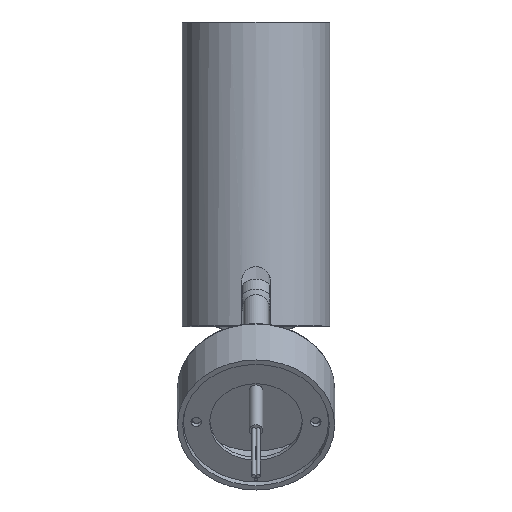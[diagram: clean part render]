
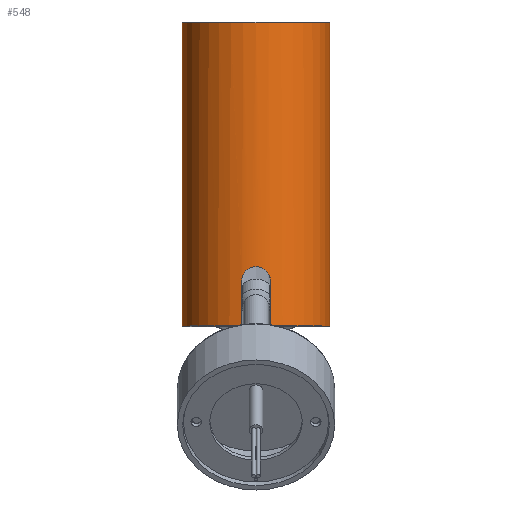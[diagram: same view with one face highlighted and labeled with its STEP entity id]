
A CAD part, top view. The second image highlights one B-rep face of the part: STEP entity #548.
In plain terms, the highlighted cylindrical face has radius 27.65 mm (diameter 55.3 mm), a partial arc.
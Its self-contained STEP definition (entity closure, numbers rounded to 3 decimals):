
#55=DIRECTION('',(0.,1.,0.));
#56=VECTOR('',#55,113.7);
#57=CARTESIAN_POINT('',(27.65,0.3,0.));
#58=LINE('',#57,#56);
#110=CARTESIAN_POINT('',(0.,114.,0.));
#111=DIRECTION('',(0.,1.,0.));
#112=DIRECTION('',(-1.,0.,0.));
#113=AXIS2_PLACEMENT_3D('',#110,#111,#112);
#118=CARTESIAN_POINT('',(0.,0.3,0.));
#119=DIRECTION('',(0.,-1.,0.));
#120=DIRECTION('',(1.,0.,0.));
#121=AXIS2_PLACEMENT_3D('',#118,#119,#120);
#126=DIRECTION('',(0.,1.,0.));
#127=VECTOR('',#126,16.8);
#128=CARTESIAN_POINT('',(5.4,0.3,27.118));
#129=LINE('',#128,#127);
#133=CARTESIAN_POINT('',(-5.4,17.1,27.118));
#134=CARTESIAN_POINT('',(-5.4,17.426,27.118));
#135=CARTESIAN_POINT('',(-5.343,18.071,27.129));
#136=CARTESIAN_POINT('',(-5.07,19.047,27.182));
#137=CARTESIAN_POINT('',(-4.631,19.936,27.261));
#138=CARTESIAN_POINT('',(-4.037,20.732,27.356));
#139=CARTESIAN_POINT('',(-3.321,21.396,27.454));
#140=CARTESIAN_POINT('',(-2.48,21.931,27.543));
#141=CARTESIAN_POINT('',(-1.543,22.309,27.613));
#142=CARTESIAN_POINT('',(-0.519,22.507,27.651));
#143=CARTESIAN_POINT('',(0.469,22.511,27.652));
#144=CARTESIAN_POINT('',(1.488,22.325,27.616));
#145=CARTESIAN_POINT('',(2.431,21.957,27.548));
#146=CARTESIAN_POINT('',(3.284,21.425,27.458));
#147=CARTESIAN_POINT('',(4.013,20.758,27.36));
#148=CARTESIAN_POINT('',(4.617,19.959,27.264));
#149=CARTESIAN_POINT('',(5.064,19.065,27.183));
#150=CARTESIAN_POINT('',(5.342,18.082,27.129));
#151=CARTESIAN_POINT('',(5.4,17.43,27.118));
#152=CARTESIAN_POINT('',(5.4,17.1,27.118));
#157=DIRECTION('',(0.,1.,0.));
#158=VECTOR('',#157,16.8);
#159=CARTESIAN_POINT('',(-5.4,0.3,27.118));
#160=LINE('',#159,#158);
#164=CARTESIAN_POINT('',(0.,0.3,0.));
#165=DIRECTION('',(0.,-1.,0.));
#166=DIRECTION('',(-0.195,0.,0.981));
#167=AXIS2_PLACEMENT_3D('',#164,#165,#166);
#172=DIRECTION('',(0.,1.,0.));
#173=VECTOR('',#172,113.7);
#174=CARTESIAN_POINT('',(-27.65,0.3,0.));
#175=LINE('',#174,#173);
#186=CARTESIAN_POINT('',(5.4,0.3,27.118));
#319=CARTESIAN_POINT('',(-5.4,0.3,27.118));
#357=VERTEX_POINT('',#133);
#358=VERTEX_POINT('',#152);
#362=VERTEX_POINT('',#186);
#363=CARTESIAN_POINT('',(27.65,0.3,0.));
#364=VERTEX_POINT('',#363);
#365=CARTESIAN_POINT('',(-27.65,0.3,0.));
#366=VERTEX_POINT('',#365);
#367=VERTEX_POINT('',#319);
#381=CARTESIAN_POINT('',(27.65,114.,0.));
#382=CARTESIAN_POINT('',(-27.65,114.,0.));
#383=VERTEX_POINT('',#381);
#384=VERTEX_POINT('',#382);
#530=CARTESIAN_POINT('',(0.,0.,0.));
#531=DIRECTION('',(0.,1.,0.));
#532=DIRECTION('',(1.,0.,0.));
#533=AXIS2_PLACEMENT_3D('',#530,#531,#532);
#534=CYLINDRICAL_SURFACE('',#533,27.65);
#535=ORIENTED_EDGE('',*,*,#517,.T.);
#536=ORIENTED_EDGE('',*,*,#452,.F.);
#537=ORIENTED_EDGE('',*,*,#430,.T.);
#539=ORIENTED_EDGE('',*,*,#538,.T.);
#541=ORIENTED_EDGE('',*,*,#540,.F.);
#543=ORIENTED_EDGE('',*,*,#542,.F.);
#544=ORIENTED_EDGE('',*,*,#423,.T.);
#545=ORIENTED_EDGE('',*,*,#449,.T.);
#546=EDGE_LOOP('',(#535,#536,#537,#539,#541,#543,#544,#545));
#547=FACE_OUTER_BOUND('',#546,.F.);
#548=ADVANCED_FACE('',(#547),#534,.T.);
#114=CIRCLE('',#113,27.65);
#122=CIRCLE('',#121,27.65);
#153=B_SPLINE_CURVE_WITH_KNOTS('',3,(#133,#134,#135,#136,#137,#138,#139,#140,
#141,#142,#143,#144,#145,#146,#147,#148,#149,#150,#151,#152),.UNSPECIFIED.,.F.,
.F.,(4,1,1,1,1,1,1,1,1,1,1,1,1,1,1,1,1,4),(0.,0.059,
0.118,0.176,0.235,0.294,
0.353,0.412,0.471,0.529,
0.588,0.647,0.706,0.765,
0.824,0.882,0.941,1.),.UNSPECIFIED.);
#168=CIRCLE('',#167,27.65);
#423=EDGE_CURVE('',#367,#366,#168,.T.);
#430=EDGE_CURVE('',#364,#362,#122,.T.);
#449=EDGE_CURVE('',#366,#384,#175,.T.);
#452=EDGE_CURVE('',#364,#383,#58,.T.);
#517=EDGE_CURVE('',#384,#383,#114,.T.);
#538=EDGE_CURVE('',#362,#358,#129,.T.);
#540=EDGE_CURVE('',#357,#358,#153,.T.);
#542=EDGE_CURVE('',#367,#357,#160,.T.);
